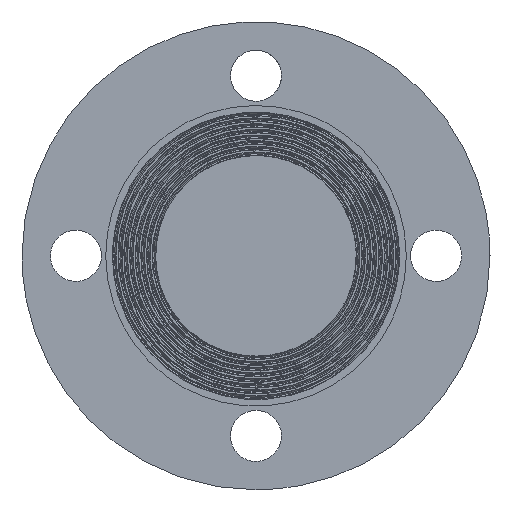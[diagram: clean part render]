
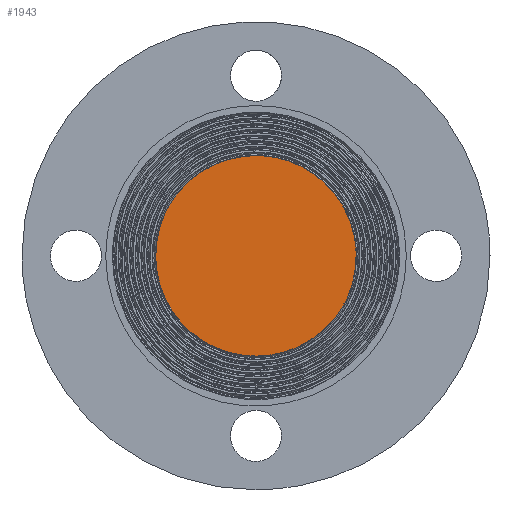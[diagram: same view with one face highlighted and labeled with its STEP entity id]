
A CAD part, left-side view. The second image highlights one B-rep face of the part: STEP entity #1943.
In plain terms, the highlighted free-form (B-spline) face has degree [1, 1] with [2, 2] control points.
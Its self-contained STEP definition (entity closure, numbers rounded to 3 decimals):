
#1943=ADVANCED_FACE('',(#3960),#3961,.T.);
#3960=FACE_OUTER_BOUND('',#10121,.T.);
#3961=B_SPLINE_SURFACE_WITH_KNOTS('',1,1,((#10122,#10123),(#10124,#10125)),.UNSPECIFIED.,.F.,.F.,.F.,(2,2),(2,2),(0.0,70.7),(0.0,70.7),.UNSPECIFIED.);
#10121=EDGE_LOOP('',(#14827,#14828));
#10122=CARTESIAN_POINT('',(-28.4,-35.35,-35.35));
#10123=CARTESIAN_POINT('',(-28.4,35.35,-35.35));
#10124=CARTESIAN_POINT('',(-28.4,-35.35,35.35));
#10125=CARTESIAN_POINT('',(-28.4,35.35,35.35));
#14827=ORIENTED_EDGE('',*,*,#15208,.F.);
#14828=ORIENTED_EDGE('',*,*,#15213,.F.);
#15208=EDGE_CURVE('',#17905,#17907,#17908,.T.);
#15213=EDGE_CURVE('',#17907,#17905,#17914,.T.);
#17905=VERTEX_POINT('',#22960);
#17907=VERTEX_POINT('',#22965);
#17908=(B_SPLINE_CURVE(2,(#22967,#22968,#22969,#22970,#22971,#22972,#22973),.UNSPECIFIED.,.F.,.F.)B_SPLINE_CURVE_WITH_KNOTS((3,2,2,3),(0.,1.047,2.094,3.142),.UNSPECIFIED.)RATIONAL_B_SPLINE_CURVE((1.0,0.866,1.0,0.866,1.0,0.866,1.0))BOUNDED_CURVE()REPRESENTATION_ITEM('')GEOMETRIC_REPRESENTATION_ITEM()CURVE());
#17914=(B_SPLINE_CURVE(2,(#22989,#22990,#22991,#22992,#22993),.UNSPECIFIED.,.F.,.F.)B_SPLINE_CURVE_WITH_KNOTS((3,2,3),(0.,1.571,3.142),.UNSPECIFIED.)RATIONAL_B_SPLINE_CURVE((1.0,0.707,1.0,0.707,1.0))BOUNDED_CURVE()REPRESENTATION_ITEM('')GEOMETRIC_REPRESENTATION_ITEM()CURVE());
#22960=CARTESIAN_POINT('',(-28.4,-31.023,-16.948));
#22965=CARTESIAN_POINT('',(-28.4,31.023,16.948));
#22967=CARTESIAN_POINT('',(-28.4,-31.023,-16.948));
#22968=CARTESIAN_POINT('',(-28.4,-21.238,-34.859));
#22969=CARTESIAN_POINT('',(-28.4,-0.834,-35.34));
#22970=CARTESIAN_POINT('',(-28.4,19.57,-35.822));
#22971=CARTESIAN_POINT('',(-28.4,30.188,-18.392));
#22972=CARTESIAN_POINT('',(-28.4,40.807,-0.963));
#22973=CARTESIAN_POINT('',(-28.4,31.023,16.948));
#22989=CARTESIAN_POINT('',(-28.4,31.023,16.948));
#22990=CARTESIAN_POINT('',(-28.4,14.075,47.97));
#22991=CARTESIAN_POINT('',(-28.4,-16.948,31.023));
#22992=CARTESIAN_POINT('',(-28.4,-47.97,14.075));
#22993=CARTESIAN_POINT('',(-28.4,-31.023,-16.948));
